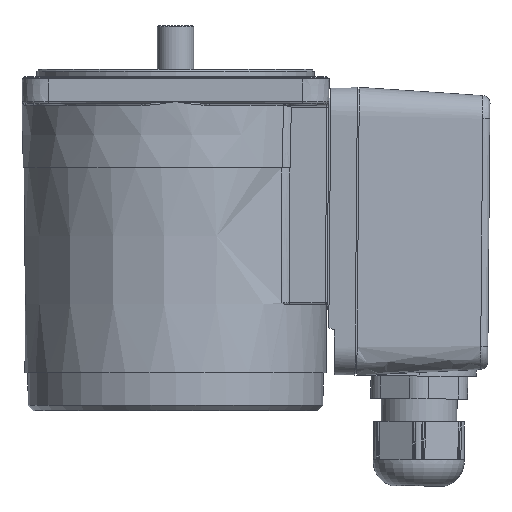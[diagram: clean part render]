
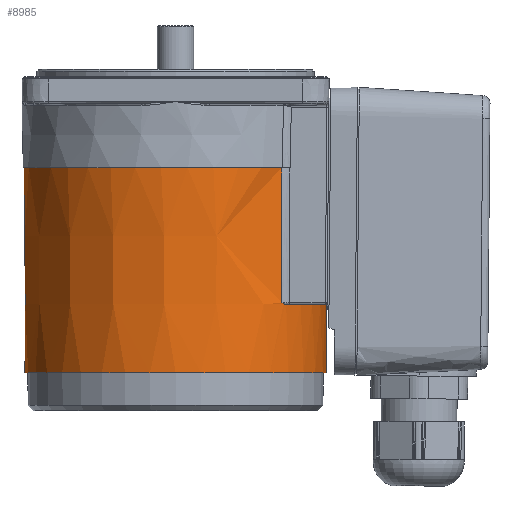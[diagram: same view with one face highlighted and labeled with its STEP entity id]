
A CAD part, left-side view. The second image highlights one B-rep face of the part: STEP entity #8985.
In plain terms, the highlighted conical face has half-angle 0.318 degrees and reference radius 40.05 mm.
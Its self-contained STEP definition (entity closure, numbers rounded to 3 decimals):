
#80 = ORIENTED_EDGE ( 'NONE', *, *, #11152, .T. ) ;
#108 = CARTESIAN_POINT ( 'NONE',  ( 0., 0., -77.5 ) ) ;
#160 = VERTEX_POINT ( 'NONE', #11670 ) ;
#387 = EDGE_CURVE ( 'NONE', #3332, #2509, #9214, .T. ) ;
#431 = CARTESIAN_POINT ( 'NONE',  ( 0., 0., -59.5 ) ) ;
#443 = CARTESIAN_POINT ( 'NONE',  ( 0.896, -39.851, -59.341 ) ) ;
#528 = ORIENTED_EDGE ( 'NONE', *, *, #4847, .F. ) ;
#540 = EDGE_CURVE ( 'NONE', #5335, #10724, #656, .T. ) ;
#636 = CARTESIAN_POINT ( 'NONE',  ( -27.234, -29.092, -59.5 ) ) ;
#656 = CIRCLE ( 'NONE', #6771, 40.05 ) ;
#698 = CARTESIAN_POINT ( 'NONE',  ( -27.343, -28.99, -59.481 ) ) ;
#852 = VERTEX_POINT ( 'NONE', #8832 ) ;
#1077 = CARTESIAN_POINT ( 'NONE',  ( -28.667, -27.968, -23.5 ) ) ;
#1269 = ORIENTED_EDGE ( 'NONE', *, *, #6870, .T. ) ;
#1300 = CARTESIAN_POINT ( 'NONE',  ( -28.667, -27.968, -23.5 ) ) ;
#1366 = CARTESIAN_POINT ( 'NONE',  ( -5.38, -39.485, -59.5 ) ) ;
#1741 = CARTESIAN_POINT ( 'NONE',  ( 27.122, -29.196, -59.5 ) ) ;
#1805 = ORIENTED_EDGE ( 'NONE', *, *, #8615, .T. ) ;
#2009 = CARTESIAN_POINT ( 'NONE',  ( 0., 0., -59.5 ) ) ;
#2058 = EDGE_CURVE ( 'NONE', #852, #10305, #9368, .T. ) ;
#2226 = CARTESIAN_POINT ( 'NONE',  ( -28.384, -27.989, -57.169 ) ) ;
#2282 = CARTESIAN_POINT ( 'NONE',  ( 28.369, -27.99, -59.003 ) ) ;
#2493 = EDGE_LOOP ( 'NONE', ( #528 ) ) ;
#2509 = VERTEX_POINT ( 'NONE', #8055 ) ;
#2516 = CIRCLE ( 'NONE', #7453, 39.75 ) ;
#2760 = CARTESIAN_POINT ( 'NONE',  ( 28.65, -27.969, -25.5 ) ) ;
#3129 = VERTEX_POINT ( 'NONE', #10467 ) ;
#3277 = FACE_BOUND ( 'NONE', #2493, .T. ) ;
#3318 = CARTESIAN_POINT ( 'NONE',  ( -28.482, -27.982, -45.5 ) ) ;
#3326 = CARTESIAN_POINT ( 'NONE',  ( 3.591, -39.698, -59.458 ) ) ;
#3332 = VERTEX_POINT ( 'NONE', #2282 ) ;
#3350 = CARTESIAN_POINT ( 'NONE',  ( 0., 0., -23.5 ) ) ;
#3462 = CARTESIAN_POINT ( 'NONE',  ( -27.663, -28.685, -59.381 ) ) ;
#3559 = ORIENTED_EDGE ( 'NONE', *, *, #387, .T. ) ;
#3648 = CARTESIAN_POINT ( 'NONE',  ( 27.234, -29.092, -59.5 ) ) ;
#3783 = DIRECTION ( 'NONE',  ( -1., 0., 0. ) ) ;
#3859 = DIRECTION ( 'NONE',  ( 0., 0., -1. ) ) ;
#3906 = CARTESIAN_POINT ( 'NONE',  ( -28.173, -28.187, -59.12 ) ) ;
#4151 = CARTESIAN_POINT ( 'NONE',  ( -5.38, -39.485, -59.5 ) ) ;
#4158 = EDGE_LOOP ( 'NONE', ( #7000, #1269, #3559, #80, #5659, #8414, #1805, #10578 ) ) ;
#4244 = CARTESIAN_POINT ( 'NONE',  ( -28.65, -27.969, -25.5 ) ) ;
#4310 = CARTESIAN_POINT ( 'NONE',  ( -1.802, -39.82, -59.378 ) ) ;
#4353 = EDGE_CURVE ( 'NONE', #10391, #5335, #8515, .T. ) ;
#4517 = CARTESIAN_POINT ( 'NONE',  ( -27.558, -28.786, -59.421 ) ) ;
#4839 = CARTESIAN_POINT ( 'NONE',  ( -27.974, -28.384, -59.239 ) ) ;
#4847 = EDGE_CURVE ( 'NONE', #3129, #3129, #2516, .T. ) ;
#5089 = B_SPLINE_CURVE_WITH_KNOTS ( 'NONE', 3,
 ( #7637, #2760, #6648, #8623, #5602, #11268, #10283, #9537, #6587, #10347 ),
 .UNSPECIFIED., .F., .F.,
 ( 4, 3, 3, 4 ),
 ( 0., 0.006, 0.03, 0.036 ),
 .UNSPECIFIED. ) ;
#5335 = VERTEX_POINT ( 'NONE', #1077 ) ;
#5437 = DIRECTION ( 'NONE',  ( 1., 0., 0. ) ) ;
#5602 = CARTESIAN_POINT ( 'NONE',  ( 28.549, -27.977, -37.5 ) ) ;
#5659 = ORIENTED_EDGE ( 'NONE', *, *, #2058, .T. ) ;
#5918 = CARTESIAN_POINT ( 'NONE',  ( -28.4, -27.988, -55.334 ) ) ;
#6148 = DIRECTION ( 'NONE',  ( 0., 0., -1. ) ) ;
#6196 = CONICAL_SURFACE ( 'NONE', #8162, 40.05, 0.006 ) ;
#6219 = CARTESIAN_POINT ( 'NONE',  ( 1.797, -39.82, -59.378 ) ) ;
#6352 = DIRECTION ( 'NONE',  ( 0., 0., 1. ) ) ;
#6374 = EDGE_CURVE ( 'NONE', #10305, #160, #10429, .T. ) ;
#6501 = CIRCLE ( 'NONE', #11622, 39.85 ) ;
#6587 = CARTESIAN_POINT ( 'NONE',  ( 28.384, -27.989, -57.168 ) ) ;
#6648 = CARTESIAN_POINT ( 'NONE',  ( 28.633, -27.971, -27.5 ) ) ;
#6771 = AXIS2_PLACEMENT_3D ( 'NONE', #3350, #6776, #7107 ) ;
#6776 = DIRECTION ( 'NONE',  ( 0., 0., -1. ) ) ;
#6870 = EDGE_CURVE ( 'NONE', #10724, #3332, #5089, .T. ) ;
#7000 = ORIENTED_EDGE ( 'NONE', *, *, #540, .T. ) ;
#7084 = CARTESIAN_POINT ( 'NONE',  ( -0.905, -39.851, -59.341 ) ) ;
#7107 = DIRECTION ( 'NONE',  ( -1., 0., 0. ) ) ;
#7188 = DIRECTION ( 'NONE',  ( -1., 0., 0. ) ) ;
#7275 = CARTESIAN_POINT ( 'NONE',  ( 0., 0., -23.5 ) ) ;
#7341 = CARTESIAN_POINT ( 'NONE',  ( 27.974, -28.384, -59.239 ) ) ;
#7453 = AXIS2_PLACEMENT_3D ( 'NONE', #108, #3859, #12190 ) ;
#7637 = CARTESIAN_POINT ( 'NONE',  ( 28.667, -27.968, -23.5 ) ) ;
#7741 = CARTESIAN_POINT ( 'NONE',  ( -28.369, -27.99, -59.003 ) ) ;
#7905 = CARTESIAN_POINT ( 'NONE',  ( 5.38, -39.485, -59.5 ) ) ;
#8055 = CARTESIAN_POINT ( 'NONE',  ( 27.122, -29.196, -59.5 ) ) ;
#8080 = FACE_OUTER_BOUND ( 'NONE', #4158, .T. ) ;
#8160 = B_SPLINE_CURVE_WITH_KNOTS ( 'NONE', 3,
 ( #9070, #636, #698, #4517, #3462, #4839, #3906, #11242 ),
 .UNSPECIFIED., .F., .F.,
 ( 4, 2, 2, 4 ),
 ( 0., 0., 0.001, 0.002 ),
 .UNSPECIFIED. ) ;
#8162 = AXIS2_PLACEMENT_3D ( 'NONE', #7275, #6352, #5437 ) ;
#8268 = CARTESIAN_POINT ( 'NONE',  ( 28.369, -27.99, -59.003 ) ) ;
#8414 = ORIENTED_EDGE ( 'NONE', *, *, #6374, .T. ) ;
#8515 = B_SPLINE_CURVE_WITH_KNOTS ( 'NONE', 3,
 ( #11768, #2226, #5918, #11655, #3318, #8757, #9732, #9672, #4244, #1300 ),
 .UNSPECIFIED., .F., .F.,
 ( 4, 3, 3, 4 ),
 ( 0., 0.006, 0.03, 0.036 ),
 .UNSPECIFIED. ) ;
#8615 = EDGE_CURVE ( 'NONE', #160, #10391, #8160, .T. ) ;
#8623 = CARTESIAN_POINT ( 'NONE',  ( 28.616, -27.972, -29.5 ) ) ;
#8655 = AXIS2_PLACEMENT_3D ( 'NONE', #2009, #10188, #3783 ) ;
#8757 = CARTESIAN_POINT ( 'NONE',  ( -28.549, -27.977, -37.501 ) ) ;
#8832 = CARTESIAN_POINT ( 'NONE',  ( 5.38, -39.485, -59.5 ) ) ;
#8934 = CARTESIAN_POINT ( 'NONE',  ( 4.487, -39.607, -59.5 ) ) ;
#8985 = ADVANCED_FACE ( 'NONE', ( #3277, #8080 ), #6196, .T. ) ;
#9070 = CARTESIAN_POINT ( 'NONE',  ( -27.122, -29.196, -59.5 ) ) ;
#9214 = B_SPLINE_CURVE_WITH_KNOTS ( 'NONE', 3,
 ( #8268, #12030, #7341, #11100, #11164, #10173, #3648, #1741 ),
 .UNSPECIFIED., .F., .F.,
 ( 4, 2, 2, 4 ),
 ( 0., 0.001, 0.001, 0.002 ),
 .UNSPECIFIED. ) ;
#9368 = B_SPLINE_CURVE_WITH_KNOTS ( 'NONE', 3,
 ( #7905, #8934, #3326, #6219, #443, #7084, #4310, #9970, #10841, #1366 ),
 .UNSPECIFIED., .F., .F.,
 ( 4, 2, 2, 2, 4 ),
 ( 0., 0.003, 0.005, 0.008, 0.011 ),
 .UNSPECIFIED. ) ;
#9537 = CARTESIAN_POINT ( 'NONE',  ( 28.4, -27.988, -55.334 ) ) ;
#9672 = CARTESIAN_POINT ( 'NONE',  ( -28.633, -27.971, -27.501 ) ) ;
#9732 = CARTESIAN_POINT ( 'NONE',  ( -28.616, -27.972, -29.501 ) ) ;
#9970 = CARTESIAN_POINT ( 'NONE',  ( -3.594, -39.698, -59.458 ) ) ;
#10173 = CARTESIAN_POINT ( 'NONE',  ( 27.343, -28.99, -59.481 ) ) ;
#10188 = DIRECTION ( 'NONE',  ( 0., 0., -1. ) ) ;
#10283 = CARTESIAN_POINT ( 'NONE',  ( 28.415, -27.987, -53.499 ) ) ;
#10305 = VERTEX_POINT ( 'NONE', #4151 ) ;
#10347 = CARTESIAN_POINT ( 'NONE',  ( 28.369, -27.99, -59.003 ) ) ;
#10391 = VERTEX_POINT ( 'NONE', #7741 ) ;
#10429 = CIRCLE ( 'NONE', #8655, 39.85 ) ;
#10467 = CARTESIAN_POINT ( 'NONE',  ( -39.75, 0., -77.5 ) ) ;
#10578 = ORIENTED_EDGE ( 'NONE', *, *, #4353, .T. ) ;
#10724 = VERTEX_POINT ( 'NONE', #11421 ) ;
#10841 = CARTESIAN_POINT ( 'NONE',  ( -4.488, -39.607, -59.5 ) ) ;
#11100 = CARTESIAN_POINT ( 'NONE',  ( 27.663, -28.685, -59.381 ) ) ;
#11152 = EDGE_CURVE ( 'NONE', #2509, #852, #6501, .T. ) ;
#11164 = CARTESIAN_POINT ( 'NONE',  ( 27.558, -28.786, -59.421 ) ) ;
#11242 = CARTESIAN_POINT ( 'NONE',  ( -28.369, -27.99, -59.003 ) ) ;
#11268 = CARTESIAN_POINT ( 'NONE',  ( 28.482, -27.982, -45.499 ) ) ;
#11421 = CARTESIAN_POINT ( 'NONE',  ( 28.667, -27.968, -23.5 ) ) ;
#11622 = AXIS2_PLACEMENT_3D ( 'NONE', #431, #6148, #7188 ) ;
#11655 = CARTESIAN_POINT ( 'NONE',  ( -28.415, -27.987, -53.5 ) ) ;
#11670 = CARTESIAN_POINT ( 'NONE',  ( -27.122, -29.196, -59.5 ) ) ;
#11768 = CARTESIAN_POINT ( 'NONE',  ( -28.369, -27.99, -59.003 ) ) ;
#12030 = CARTESIAN_POINT ( 'NONE',  ( 28.173, -28.188, -59.121 ) ) ;
#12190 = DIRECTION ( 'NONE',  ( -1., 0., 0. ) ) ;
